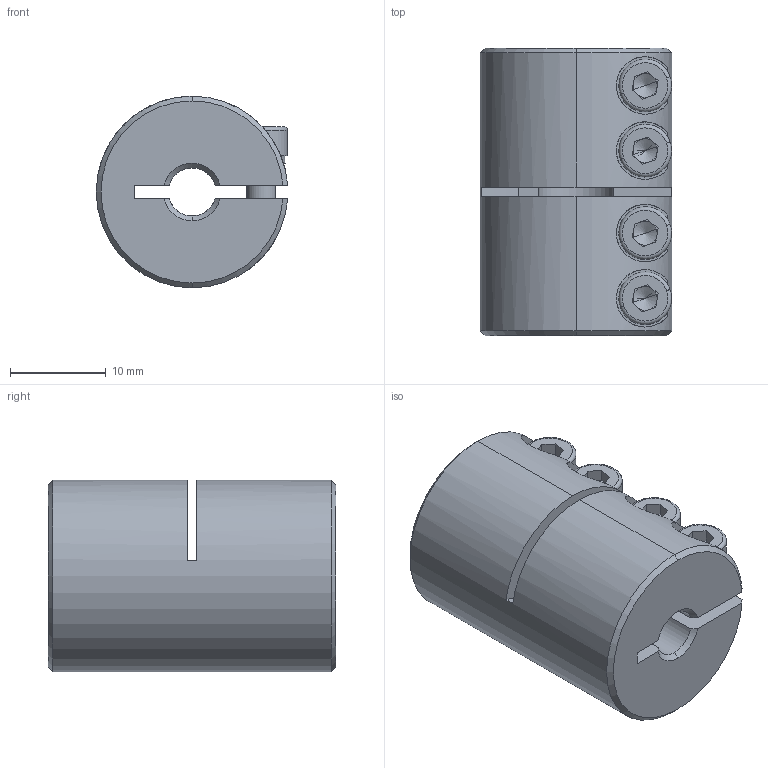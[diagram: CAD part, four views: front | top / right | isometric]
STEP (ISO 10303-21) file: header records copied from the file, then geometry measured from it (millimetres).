
FILE_DESCRIPTION (( 'STEP AP203' ), '1' );
FILE_NAME ('LL-B-D20L30-5-8.STEP', '2021-11-05T03:09:12', ( '' ), ( '' ), 'SwSTEP 2.0', 'SolidWorks 2018', '' );
FILE_SCHEMA (( 'CONFIG_CONTROL_DESIGN' ));
Length unit declared in the file: millimetre
Products named in the file (1): LL-B-D20L30-5-8
Bounding box: 19.98 x 30 x 20 mm (x, y, z)
Volume: 7676.8 mm3; surface area: 4547.8 mm2
Topology: 1 solids, 1 shells, 178 faces, 459 edges, 287 vertices
Faces by surface type: plane 89, cylinder 61, cone 20, torus 8
Entity records: 5821 total; most frequent: CARTESIAN_POINT 1349, DIRECTION 958, ORIENTED_EDGE 902, EDGE_CURVE 451, AXIS2_PLACEMENT_3D 368, VERTEX_POINT 287, LINE 222, VECTOR 222
